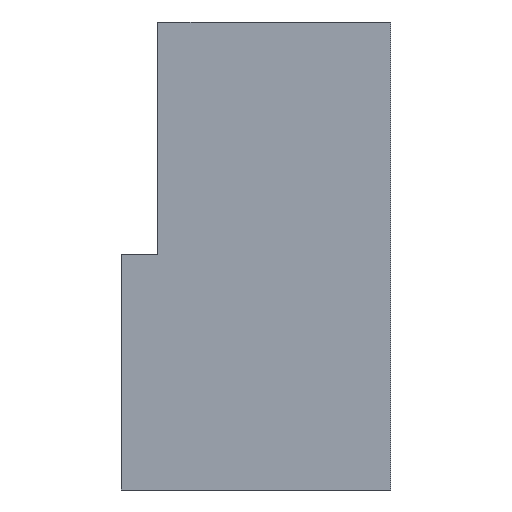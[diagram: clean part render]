
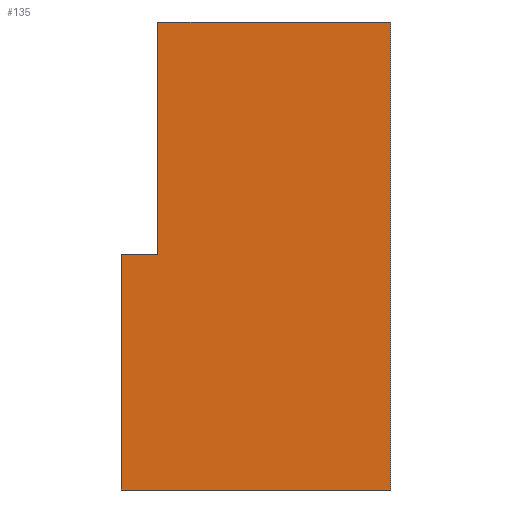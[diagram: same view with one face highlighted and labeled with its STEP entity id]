
A CAD part, front view. The second image highlights one B-rep face of the part: STEP entity #135.
In plain terms, the highlighted planar face has unit normal (0, -1, 0).
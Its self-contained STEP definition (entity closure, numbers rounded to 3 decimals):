
#21 = EDGE_CURVE('',#22,#24,#26,.T.);
#22 = VERTEX_POINT('',#23);
#23 = CARTESIAN_POINT('',(32.1,-8.,-5.45));
#24 = VERTEX_POINT('',#25);
#25 = CARTESIAN_POINT('',(32.1,-8.,0.));
#26 = SURFACE_CURVE('',#27,(#31,#43),.PCURVE_S1.);
#27 = LINE('',#28,#29);
#28 = CARTESIAN_POINT('',(32.1,-8.,-5.45));
#29 = VECTOR('',#30,1.);
#30 = DIRECTION('',(0.,0.,1.));
#31 = PCURVE('',#32,#37);
#32 = PLANE('',#33);
#33 = AXIS2_PLACEMENT_3D('',#34,#35,#36);
#34 = CARTESIAN_POINT('',(32.1,-8.,-5.45));
#35 = DIRECTION('',(1.,0.,0.));
#36 = DIRECTION('',(0.,0.,1.));
#37 = DEFINITIONAL_REPRESENTATION('',(#38),#42);
#38 = LINE('',#39,#40);
#39 = CARTESIAN_POINT('',(0.,0.));
#40 = VECTOR('',#41,1.);
#41 = DIRECTION('',(1.,0.));
#42 = ( GEOMETRIC_REPRESENTATION_CONTEXT(2) 
PARAMETRIC_REPRESENTATION_CONTEXT() REPRESENTATION_CONTEXT('2D SPACE',''
  ) );
#43 = PCURVE('',#44,#49);
#44 = PLANE('',#45);
#45 = AXIS2_PLACEMENT_3D('',#46,#47,#48);
#46 = CARTESIAN_POINT('',(32.1,-8.,-5.45));
#47 = DIRECTION('',(0.,1.,0.));
#48 = DIRECTION('',(0.,0.,1.));
#49 = DEFINITIONAL_REPRESENTATION('',(#50),#54);
#50 = LINE('',#51,#52);
#51 = CARTESIAN_POINT('',(0.,0.));
#52 = VECTOR('',#53,1.);
#53 = DIRECTION('',(1.,0.));
#54 = ( GEOMETRIC_REPRESENTATION_CONTEXT(2) 
PARAMETRIC_REPRESENTATION_CONTEXT() REPRESENTATION_CONTEXT('2D SPACE',''
  ) );
#72 = PLANE('',#73);
#73 = AXIS2_PLACEMENT_3D('',#74,#75,#76);
#74 = CARTESIAN_POINT('',(32.1,-8.,-5.45));
#75 = DIRECTION('',(0.,0.,1.));
#76 = DIRECTION('',(1.,0.,0.));
#125 = PLANE('',#126);
#126 = AXIS2_PLACEMENT_3D('',#127,#128,#129);
#127 = CARTESIAN_POINT('',(31.1,-9.,0.));
#128 = DIRECTION('',(0.,0.,1.));
#129 = DIRECTION('',(1.,0.,0.));
#135 = ADVANCED_FACE('',(#136),#44,.F.);
#136 = FACE_BOUND('',#137,.F.);
#137 = EDGE_LOOP('',(#138,#168,#189,#190,#211,#237));
#138 = ORIENTED_EDGE('',*,*,#139,.F.);
#139 = EDGE_CURVE('',#140,#142,#144,.T.);
#140 = VERTEX_POINT('',#141);
#141 = CARTESIAN_POINT('',(38.35,-8.,-5.45));
#142 = VERTEX_POINT('',#143);
#143 = CARTESIAN_POINT('',(38.35,-8.,5.4));
#144 = SURFACE_CURVE('',#145,(#149,#156),.PCURVE_S1.);
#145 = LINE('',#146,#147);
#146 = CARTESIAN_POINT('',(38.35,-8.,-5.45));
#147 = VECTOR('',#148,1.);
#148 = DIRECTION('',(0.,0.,1.));
#149 = PCURVE('',#44,#150);
#150 = DEFINITIONAL_REPRESENTATION('',(#151),#155);
#151 = LINE('',#152,#153);
#152 = CARTESIAN_POINT('',(0.,6.25));
#153 = VECTOR('',#154,1.);
#154 = DIRECTION('',(1.,0.));
#155 = ( GEOMETRIC_REPRESENTATION_CONTEXT(2) 
PARAMETRIC_REPRESENTATION_CONTEXT() REPRESENTATION_CONTEXT('2D SPACE',''
  ) );
#156 = PCURVE('',#157,#162);
#157 = PLANE('',#158);
#158 = AXIS2_PLACEMENT_3D('',#159,#160,#161);
#159 = CARTESIAN_POINT('',(38.35,-8.,-5.45));
#160 = DIRECTION('',(1.,0.,0.));
#161 = DIRECTION('',(0.,0.,1.));
#162 = DEFINITIONAL_REPRESENTATION('',(#163),#167);
#163 = LINE('',#164,#165);
#164 = CARTESIAN_POINT('',(0.,0.));
#165 = VECTOR('',#166,1.);
#166 = DIRECTION('',(1.,0.));
#167 = ( GEOMETRIC_REPRESENTATION_CONTEXT(2) 
PARAMETRIC_REPRESENTATION_CONTEXT() REPRESENTATION_CONTEXT('2D SPACE',''
  ) );
#168 = ORIENTED_EDGE('',*,*,#169,.F.);
#169 = EDGE_CURVE('',#22,#140,#170,.T.);
#170 = SURFACE_CURVE('',#171,(#175,#182),.PCURVE_S1.);
#171 = LINE('',#172,#173);
#172 = CARTESIAN_POINT('',(32.1,-8.,-5.45));
#173 = VECTOR('',#174,1.);
#174 = DIRECTION('',(1.,0.,0.));
#175 = PCURVE('',#44,#176);
#176 = DEFINITIONAL_REPRESENTATION('',(#177),#181);
#177 = LINE('',#178,#179);
#178 = CARTESIAN_POINT('',(0.,0.));
#179 = VECTOR('',#180,1.);
#180 = DIRECTION('',(0.,1.));
#181 = ( GEOMETRIC_REPRESENTATION_CONTEXT(2) 
PARAMETRIC_REPRESENTATION_CONTEXT() REPRESENTATION_CONTEXT('2D SPACE',''
  ) );
#182 = PCURVE('',#72,#183);
#183 = DEFINITIONAL_REPRESENTATION('',(#184),#188);
#184 = LINE('',#185,#186);
#185 = CARTESIAN_POINT('',(0.,0.));
#186 = VECTOR('',#187,1.);
#187 = DIRECTION('',(1.,0.));
#188 = ( GEOMETRIC_REPRESENTATION_CONTEXT(2) 
PARAMETRIC_REPRESENTATION_CONTEXT() REPRESENTATION_CONTEXT('2D SPACE',''
  ) );
#189 = ORIENTED_EDGE('',*,*,#21,.T.);
#190 = ORIENTED_EDGE('',*,*,#191,.T.);
#191 = EDGE_CURVE('',#24,#192,#194,.T.);
#192 = VERTEX_POINT('',#193);
#193 = CARTESIAN_POINT('',(32.95,-8.,0.));
#194 = SURFACE_CURVE('',#195,(#199,#205),.PCURVE_S1.);
#195 = LINE('',#196,#197);
#196 = CARTESIAN_POINT('',(31.6,-8.,0.));
#197 = VECTOR('',#198,1.);
#198 = DIRECTION('',(1.,0.,0.));
#199 = PCURVE('',#44,#200);
#200 = DEFINITIONAL_REPRESENTATION('',(#201),#204);
#201 = B_SPLINE_CURVE_WITH_KNOTS('',1,(#202,#203),.UNSPECIFIED.,.F.,.F.,
  (2,2),(0.5,1.35),.PIECEWISE_BEZIER_KNOTS.);
#202 = CARTESIAN_POINT('',(5.45,0.));
#203 = CARTESIAN_POINT('',(5.45,0.85));
#204 = ( GEOMETRIC_REPRESENTATION_CONTEXT(2) 
PARAMETRIC_REPRESENTATION_CONTEXT() REPRESENTATION_CONTEXT('2D SPACE',''
  ) );
#205 = PCURVE('',#125,#206);
#206 = DEFINITIONAL_REPRESENTATION('',(#207),#210);
#207 = B_SPLINE_CURVE_WITH_KNOTS('',1,(#208,#209),.UNSPECIFIED.,.F.,.F.,
  (2,2),(0.5,1.35),.PIECEWISE_BEZIER_KNOTS.);
#208 = CARTESIAN_POINT('',(1.,1.));
#209 = CARTESIAN_POINT('',(1.85,1.));
#210 = ( GEOMETRIC_REPRESENTATION_CONTEXT(2) 
PARAMETRIC_REPRESENTATION_CONTEXT() REPRESENTATION_CONTEXT('2D SPACE',''
  ) );
#211 = ORIENTED_EDGE('',*,*,#212,.F.);
#212 = EDGE_CURVE('',#213,#192,#215,.T.);
#213 = VERTEX_POINT('',#214);
#214 = CARTESIAN_POINT('',(32.95,-8.,5.4));
#215 = SURFACE_CURVE('',#216,(#220,#226),.PCURVE_S1.);
#216 = LINE('',#217,#218);
#217 = CARTESIAN_POINT('',(32.95,-8.,-2.725));
#218 = VECTOR('',#219,1.);
#219 = DIRECTION('',(0.,0.,-1.));
#220 = PCURVE('',#44,#221);
#221 = DEFINITIONAL_REPRESENTATION('',(#222),#225);
#222 = B_SPLINE_CURVE_WITH_KNOTS('',1,(#223,#224),.UNSPECIFIED.,.F.,.F.,
  (2,2),(-8.125,-2.725),.PIECEWISE_BEZIER_KNOTS.);
#223 = CARTESIAN_POINT('',(10.85,0.85));
#224 = CARTESIAN_POINT('',(5.45,0.85));
#225 = ( GEOMETRIC_REPRESENTATION_CONTEXT(2) 
PARAMETRIC_REPRESENTATION_CONTEXT() REPRESENTATION_CONTEXT('2D SPACE',''
  ) );
#226 = PCURVE('',#227,#232);
#227 = PLANE('',#228);
#228 = AXIS2_PLACEMENT_3D('',#229,#230,#231);
#229 = CARTESIAN_POINT('',(32.95,-9.,0.));
#230 = DIRECTION('',(1.,0.,0.));
#231 = DIRECTION('',(0.,0.,1.));
#232 = DEFINITIONAL_REPRESENTATION('',(#233),#236);
#233 = B_SPLINE_CURVE_WITH_KNOTS('',1,(#234,#235),.UNSPECIFIED.,.F.,.F.,
  (2,2),(-8.125,-2.725),.PIECEWISE_BEZIER_KNOTS.);
#234 = CARTESIAN_POINT('',(5.4,-1.));
#235 = CARTESIAN_POINT('',(0.,-1.));
#236 = ( GEOMETRIC_REPRESENTATION_CONTEXT(2) 
PARAMETRIC_REPRESENTATION_CONTEXT() REPRESENTATION_CONTEXT('2D SPACE',''
  ) );
#237 = ORIENTED_EDGE('',*,*,#238,.T.);
#238 = EDGE_CURVE('',#213,#142,#239,.T.);
#239 = SURFACE_CURVE('',#240,(#244,#251),.PCURVE_S1.);
#240 = LINE('',#241,#242);
#241 = CARTESIAN_POINT('',(32.1,-8.,5.4));
#242 = VECTOR('',#243,1.);
#243 = DIRECTION('',(1.,0.,0.));
#244 = PCURVE('',#44,#245);
#245 = DEFINITIONAL_REPRESENTATION('',(#246),#250);
#246 = LINE('',#247,#248);
#247 = CARTESIAN_POINT('',(10.85,0.));
#248 = VECTOR('',#249,1.);
#249 = DIRECTION('',(0.,1.));
#250 = ( GEOMETRIC_REPRESENTATION_CONTEXT(2) 
PARAMETRIC_REPRESENTATION_CONTEXT() REPRESENTATION_CONTEXT('2D SPACE',''
  ) );
#251 = PCURVE('',#252,#257);
#252 = PLANE('',#253);
#253 = AXIS2_PLACEMENT_3D('',#254,#255,#256);
#254 = CARTESIAN_POINT('',(32.1,-8.,5.4));
#255 = DIRECTION('',(0.,0.,1.));
#256 = DIRECTION('',(1.,0.,0.));
#257 = DEFINITIONAL_REPRESENTATION('',(#258),#262);
#258 = LINE('',#259,#260);
#259 = CARTESIAN_POINT('',(0.,0.));
#260 = VECTOR('',#261,1.);
#261 = DIRECTION('',(1.,0.));
#262 = ( GEOMETRIC_REPRESENTATION_CONTEXT(2) 
PARAMETRIC_REPRESENTATION_CONTEXT() REPRESENTATION_CONTEXT('2D SPACE',''
  ) );
